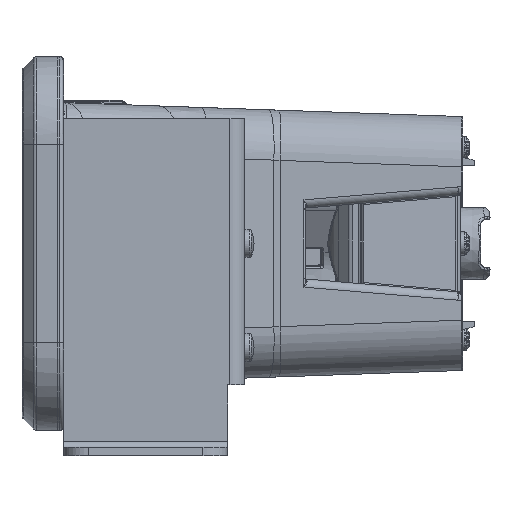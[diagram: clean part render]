
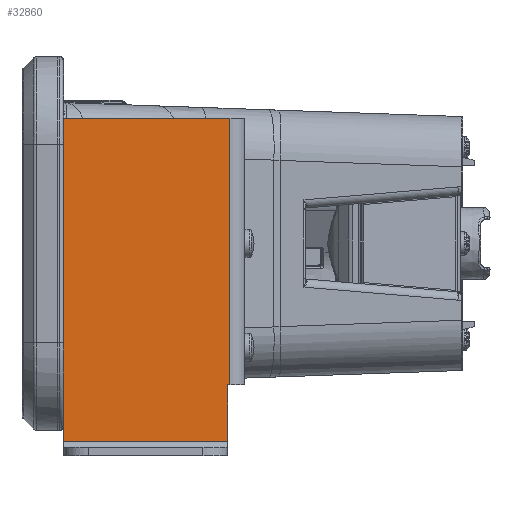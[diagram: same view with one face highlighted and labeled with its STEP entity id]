
A CAD part, left-side view. The second image highlights one B-rep face of the part: STEP entity #32860.
In plain terms, the highlighted planar face has unit normal (-1, 0, 0).
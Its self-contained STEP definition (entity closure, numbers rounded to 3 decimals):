
#695 = VECTOR ( 'NONE', #18722, 1000. ) ;
#2619 = CARTESIAN_POINT ( 'NONE',  ( -165.5, 75., -47.5 ) ) ;
#4795 = CARTESIAN_POINT ( 'NONE',  ( -165.5, 35., -34. ) ) ;
#5205 = DIRECTION ( 'NONE',  ( 0., 0., -1. ) ) ;
#6045 = ORIENTED_EDGE ( 'NONE', *, *, #115021, .F. ) ;
#6080 = VERTEX_POINT ( 'NONE', #29550 ) ;
#6222 = VERTEX_POINT ( 'NONE', #90822 ) ;
#6590 = LINE ( 'NONE', #108268, #115255 ) ;
#9632 = CARTESIAN_POINT ( 'NONE',  ( -165.5, 75., 43.991 ) ) ;
#16308 = CARTESIAN_POINT ( 'NONE',  ( -165.5, 81.5, 30. ) ) ;
#16564 = EDGE_CURVE ( 'NONE', #6222, #6080, #107112, .T. ) ;
#18722 = DIRECTION ( 'NONE',  ( 0., 0., -1. ) ) ;
#19298 = ORIENTED_EDGE ( 'NONE', *, *, #16564, .T. ) ;
#19996 = VECTOR ( 'NONE', #39958, 1000. ) ;
#20936 = EDGE_CURVE ( 'NONE', #94740, #6222, #48371, .T. ) ;
#23354 = ORIENTED_EDGE ( 'NONE', *, *, #103124, .T. ) ;
#25949 = PLANE ( 'NONE',  #92774 ) ;
#26360 = LINE ( 'NONE', #108765, #60799 ) ;
#26785 = VERTEX_POINT ( 'NONE', #65117 ) ;
#27522 = VECTOR ( 'NONE', #46364, 1000. ) ;
#29550 = CARTESIAN_POINT ( 'NONE',  ( -165.5, 35., 30. ) ) ;
#29649 = VERTEX_POINT ( 'NONE', #2619 ) ;
#32590 = VECTOR ( 'NONE', #49967, 1000. ) ;
#32860 = ADVANCED_FACE ( 'NONE', ( #116833 ), #25949, .F. ) ;
#37367 = CARTESIAN_POINT ( 'NONE',  ( -165.5, 35.5, -34. ) ) ;
#39033 = VERTEX_POINT ( 'NONE', #81231 ) ;
#39958 = DIRECTION ( 'NONE',  ( 0., -1., 0. ) ) ;
#42589 = VERTEX_POINT ( 'NONE', #77849 ) ;
#44600 = LINE ( 'NONE', #9632, #27522 ) ;
#46364 = DIRECTION ( 'NONE',  ( 0., 0., -1. ) ) ;
#47377 = ORIENTED_EDGE ( 'NONE', *, *, #90015, .T. ) ;
#48371 = LINE ( 'NONE', #67013, #19996 ) ;
#49967 = DIRECTION ( 'NONE',  ( 0., 0., 1. ) ) ;
#50846 = EDGE_LOOP ( 'NONE', ( #105875, #56344, #23354, #47377, #6045, #98341, #19298 ) ) ;
#51700 = EDGE_CURVE ( 'NONE', #42589, #39033, #44600, .T. ) ;
#53015 = DIRECTION ( 'NONE',  ( 1., 0., 0. ) ) ;
#56344 = ORIENTED_EDGE ( 'NONE', *, *, #51700, .T. ) ;
#60799 = VECTOR ( 'NONE', #61277, 1000. ) ;
#61277 = DIRECTION ( 'NONE',  ( 0., -1., 0. ) ) ;
#65117 = CARTESIAN_POINT ( 'NONE',  ( -165.5, 35.5, -47.5 ) ) ;
#67013 = CARTESIAN_POINT ( 'NONE',  ( -165.5, 81.5, -34. ) ) ;
#77849 = CARTESIAN_POINT ( 'NONE',  ( -165.5, 75., 30. ) ) ;
#81231 = CARTESIAN_POINT ( 'NONE',  ( -165.5, 75., -39.377 ) ) ;
#89037 = DIRECTION ( 'NONE',  ( 0., 1., 0. ) ) ;
#89733 = DIRECTION ( 'NONE',  ( 0., -1., 0. ) ) ;
#90015 = EDGE_CURVE ( 'NONE', #29649, #26785, #26360, .T. ) ;
#90822 = CARTESIAN_POINT ( 'NONE',  ( -165.5, 35., -34. ) ) ;
#92774 = AXIS2_PLACEMENT_3D ( 'NONE', #16308, #53015, #89733 ) ;
#93529 = VECTOR ( 'NONE', #5205, 1000. ) ;
#94740 = VERTEX_POINT ( 'NONE', #37367 ) ;
#95010 = EDGE_CURVE ( 'NONE', #6080, #42589, #6590, .T. ) ;
#97891 = LINE ( 'NONE', #98475, #93529 ) ;
#98341 = ORIENTED_EDGE ( 'NONE', *, *, #20936, .T. ) ;
#98475 = CARTESIAN_POINT ( 'NONE',  ( -165.5, 35.5, 30. ) ) ;
#99974 = CARTESIAN_POINT ( 'NONE',  ( -165.5, 75., -30. ) ) ;
#101154 = LINE ( 'NONE', #99974, #695 ) ;
#103124 = EDGE_CURVE ( 'NONE', #39033, #29649, #101154, .T. ) ;
#105875 = ORIENTED_EDGE ( 'NONE', *, *, #95010, .T. ) ;
#107112 = LINE ( 'NONE', #4795, #32590 ) ;
#108268 = CARTESIAN_POINT ( 'NONE',  ( -165.5, 81.5, 30. ) ) ;
#108765 = CARTESIAN_POINT ( 'NONE',  ( -165.5, 75., -47.5 ) ) ;
#115021 = EDGE_CURVE ( 'NONE', #94740, #26785, #97891, .T. ) ;
#115255 = VECTOR ( 'NONE', #89037, 1000. ) ;
#116833 = FACE_OUTER_BOUND ( 'NONE', #50846, .T. ) ;
